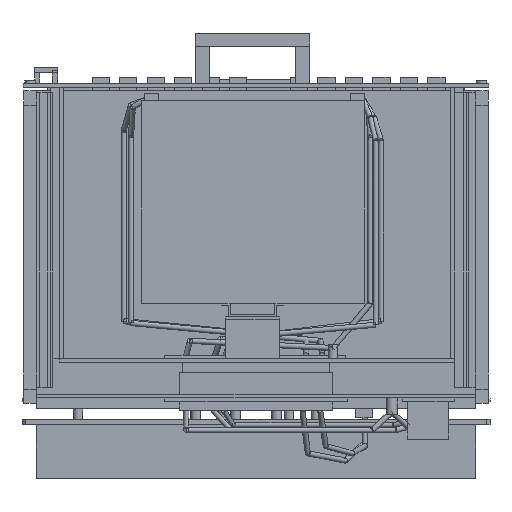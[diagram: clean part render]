
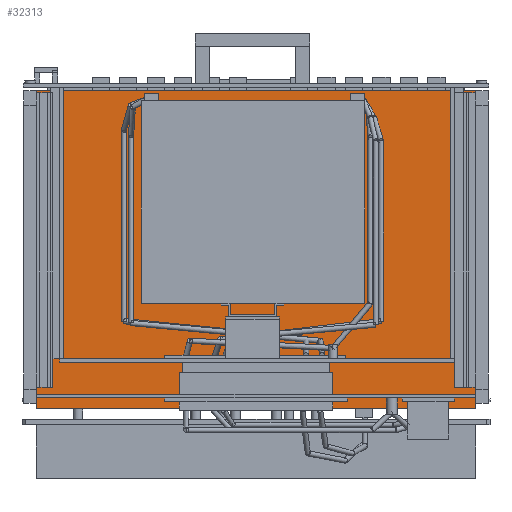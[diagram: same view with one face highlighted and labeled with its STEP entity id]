
A CAD part, left-side view. The second image highlights one B-rep face of the part: STEP entity #32313.
In plain terms, the highlighted planar face has unit normal (-1, 0, 0).
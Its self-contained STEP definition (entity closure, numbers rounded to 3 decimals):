
#32313 = ADVANCED_FACE('',(#32314),#32348,.F.);
#32314 = FACE_BOUND('',#32315,.F.);
#32315 = EDGE_LOOP('',(#32316,#32326,#32334,#32342));
#32316 = ORIENTED_EDGE('',*,*,#32317,.F.);
#32317 = EDGE_CURVE('',#32318,#32320,#32322,.T.);
#32318 = VERTEX_POINT('',#32319);
#32319 = CARTESIAN_POINT('',(88.7,8.,-4.));
#32320 = VERTEX_POINT('',#32321);
#32321 = CARTESIAN_POINT('',(88.7,8.,174.));
#32322 = LINE('',#32323,#32324);
#32323 = CARTESIAN_POINT('',(88.7,8.,-4.));
#32324 = VECTOR('',#32325,1.);
#32325 = DIRECTION('',(0.,0.,1.));
#32326 = ORIENTED_EDGE('',*,*,#32327,.T.);
#32327 = EDGE_CURVE('',#32318,#32328,#32330,.T.);
#32328 = VERTEX_POINT('',#32329);
#32329 = CARTESIAN_POINT('',(88.7,254.05,-4.));
#32330 = LINE('',#32331,#32332);
#32331 = CARTESIAN_POINT('',(88.7,8.,-4.));
#32332 = VECTOR('',#32333,1.);
#32333 = DIRECTION('',(-0.,1.,0.));
#32334 = ORIENTED_EDGE('',*,*,#32335,.T.);
#32335 = EDGE_CURVE('',#32328,#32336,#32338,.T.);
#32336 = VERTEX_POINT('',#32337);
#32337 = CARTESIAN_POINT('',(88.7,254.05,174.));
#32338 = LINE('',#32339,#32340);
#32339 = CARTESIAN_POINT('',(88.7,254.05,-4.));
#32340 = VECTOR('',#32341,1.);
#32341 = DIRECTION('',(0.,0.,1.));
#32342 = ORIENTED_EDGE('',*,*,#32343,.F.);
#32343 = EDGE_CURVE('',#32320,#32336,#32344,.T.);
#32344 = LINE('',#32345,#32346);
#32345 = CARTESIAN_POINT('',(88.7,8.,174.));
#32346 = VECTOR('',#32347,1.);
#32347 = DIRECTION('',(-0.,1.,0.));
#32348 = PLANE('',#32349);
#32349 = AXIS2_PLACEMENT_3D('',#32350,#32351,#32352);
#32350 = CARTESIAN_POINT('',(88.7,8.,-4.));
#32351 = DIRECTION('',(1.,0.,-0.));
#32352 = DIRECTION('',(0.,0.,1.));
